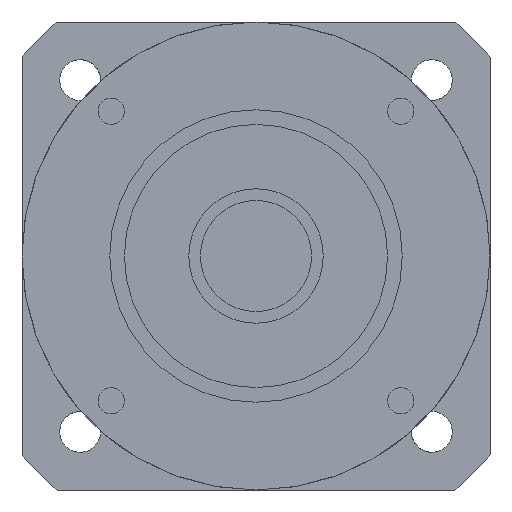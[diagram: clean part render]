
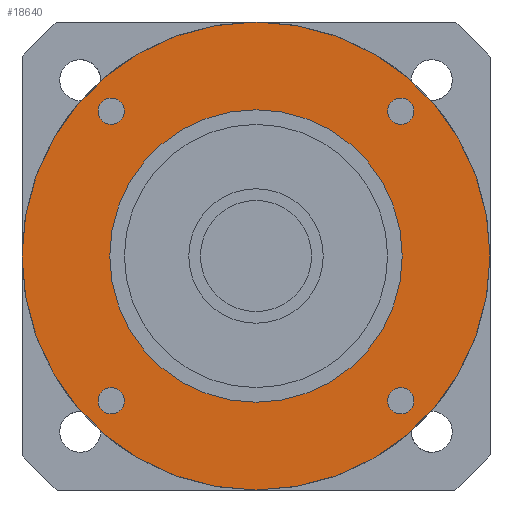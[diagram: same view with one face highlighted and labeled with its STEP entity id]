
A CAD part, left-side view. The second image highlights one B-rep face of the part: STEP entity #18640.
In plain terms, the highlighted planar face has unit normal (-1, 0, 0) as drawn and (0, 0, -1) by its records, which use the part's own axes.
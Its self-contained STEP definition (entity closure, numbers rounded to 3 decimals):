
#17460=CARTESIAN_POINT('',(-40.,0.,-47.));
#17470=VERTEX_POINT('',#17460);
#17560=CARTESIAN_POINT('',(40.,0.,-47.));
#17570=VERTEX_POINT('',#17560);
#17600=CARTESIAN_POINT('',(0.,0.,
-47.));
#17610=DIRECTION('',(0.,0.,1.));
#17620=DIRECTION('',(1.,0.,0.));
#17630=AXIS2_PLACEMENT_3D('',#17600,#17610,#17620);
#17640=CIRCLE('',#17630,40.);
#17650=CARTESIAN_POINT('',(0.,-40.,-47.));
#17660=VERTEX_POINT('',#17650);
#17670=EDGE_CURVE('',#17660,#17570,#17640,.T.);
#17690=EDGE_CURVE('',#17470,#17660,#17640,.T.);
#17740=CARTESIAN_POINT('',(0.,0.,
-47.));
#17750=DIRECTION('',(0.,0.,-1.));
#17760=DIRECTION('',(1.,0.,0.));
#17770=AXIS2_PLACEMENT_3D('',#17740,#17750,#17760);
#17780=PLANE('',#17770);
#17790=CARTESIAN_POINT('',(24.749,-24.749,-47.));
#17800=DIRECTION('',(0.,0.,-1.));
#17810=DIRECTION('',(1.,0.,0.));
#17820=AXIS2_PLACEMENT_3D('',#17790,#17800,#17810);
#17830=CIRCLE('',#17820,2.25);
#17840=CARTESIAN_POINT('',(26.999,-24.749,-47.));
#17850=VERTEX_POINT('',#17840);
#17860=CARTESIAN_POINT('',(22.499,-24.749,-47.));
#17870=VERTEX_POINT('',#17860);
#17880=EDGE_CURVE('',#17850,#17870,#17830,.T.);
#17890=ORIENTED_EDGE('',*,*,#17880,.F.);
#17900=EDGE_CURVE('',#17870,#17850,#17830,.T.);
#17910=ORIENTED_EDGE('',*,*,#17900,.F.);
#17920=EDGE_LOOP('',(#17910,#17890));
#17930=FACE_BOUND('',#17920,.T.);
#17940=ORIENTED_EDGE('',*,*,#17670,.F.);
#17950=EDGE_CURVE('',#17570,#17470,#17640,.T.);
#17960=ORIENTED_EDGE('',*,*,#17950,.F.);
#17970=ORIENTED_EDGE('',*,*,#17690,.F.);
#17980=EDGE_LOOP('',(#17970,#17960,#17940));
#17990=FACE_OUTER_BOUND('',#17980,.T.);
#18000=CARTESIAN_POINT('',(24.749,24.749,-47.));
#18010=DIRECTION('',(0.,0.,-1.));
#18020=DIRECTION('',(0.,1.,0.));
#18030=AXIS2_PLACEMENT_3D('',#18000,#18010,#18020);
#18040=CIRCLE('',#18030,2.25);
#18050=CARTESIAN_POINT('',(24.749,26.999,-47.));
#18060=VERTEX_POINT('',#18050);
#18070=CARTESIAN_POINT('',(24.749,22.499,-47.));
#18080=VERTEX_POINT('',#18070);
#18090=EDGE_CURVE('',#18060,#18080,#18040,.T.);
#18100=ORIENTED_EDGE('',*,*,#18090,.F.);
#18110=EDGE_CURVE('',#18080,#18060,#18040,.T.);
#18120=ORIENTED_EDGE('',*,*,#18110,.F.);
#18130=EDGE_LOOP('',(#18120,#18100));
#18140=FACE_BOUND('',#18130,.T.);
#18150=CARTESIAN_POINT('',(-24.749,24.749,-47.));
#18160=DIRECTION('',(0.,0.,-1.));
#18170=DIRECTION('',(-1.,0.,0.));
#18180=AXIS2_PLACEMENT_3D('',#18150,#18160,#18170);
#18190=CIRCLE('',#18180,2.25);
#18200=CARTESIAN_POINT('',(-26.999,24.749,-47.));
#18210=VERTEX_POINT('',#18200);
#18220=CARTESIAN_POINT('',(-22.499,24.749,-47.));
#18230=VERTEX_POINT('',#18220);
#18240=EDGE_CURVE('',#18210,#18230,#18190,.T.);
#18250=ORIENTED_EDGE('',*,*,#18240,.F.);
#18260=EDGE_CURVE('',#18230,#18210,#18190,.T.);
#18270=ORIENTED_EDGE('',*,*,#18260,.F.);
#18280=EDGE_LOOP('',(#18270,#18250));
#18290=FACE_BOUND('',#18280,.T.);
#18300=CARTESIAN_POINT('',(-24.749,-24.749,-47.));
#18310=DIRECTION('',(0.,0.,-1.));
#18320=DIRECTION('',(0.,-1.,0.));
#18330=AXIS2_PLACEMENT_3D('',#18300,#18310,#18320);
#18340=CIRCLE('',#18330,2.25);
#18350=CARTESIAN_POINT('',(-24.749,-26.999,-47.));
#18360=VERTEX_POINT('',#18350);
#18370=CARTESIAN_POINT('',(-24.749,-22.499,-47.));
#18380=VERTEX_POINT('',#18370);
#18390=EDGE_CURVE('',#18360,#18380,#18340,.T.);
#18400=ORIENTED_EDGE('',*,*,#18390,.F.);
#18410=EDGE_CURVE('',#18380,#18360,#18340,.T.);
#18420=ORIENTED_EDGE('',*,*,#18410,.F.);
#18430=EDGE_LOOP('',(#18420,#18400));
#18440=FACE_BOUND('',#18430,.T.);
#18450=CARTESIAN_POINT('',(0.,0.,
-47.));
#18460=DIRECTION('',(0.,0.,1.));
#18470=DIRECTION('',(0.,1.,0.));
#18480=AXIS2_PLACEMENT_3D('',#18450,#18460,#18470);
#18490=CIRCLE('',#18480,25.);
#18500=CARTESIAN_POINT('',(-25.,0.,-47.));
#18510=VERTEX_POINT('',#18500);
#18520=CARTESIAN_POINT('',(25.,0.,-47.));
#18530=VERTEX_POINT('',#18520);
#18540=EDGE_CURVE('',#18510,#18530,#18490,.T.);
#18550=ORIENTED_EDGE('',*,*,#18540,.T.);
#18560=CARTESIAN_POINT('',(0.,25.,-47.));
#18570=VERTEX_POINT('',#18560);
#18580=EDGE_CURVE('',#18570,#18510,#18490,.T.);
#18590=ORIENTED_EDGE('',*,*,#18580,.T.);
#18600=EDGE_CURVE('',#18530,#18570,#18490,.T.);
#18610=ORIENTED_EDGE('',*,*,#18600,.T.);
#18620=EDGE_LOOP('',(#18610,#18590,#18550));
#18630=FACE_BOUND('',#18620,.T.);
#18640=ADVANCED_FACE('',(#17930,#17990,#18140,#18290,#18440,#18630),
#17780,.T.);
